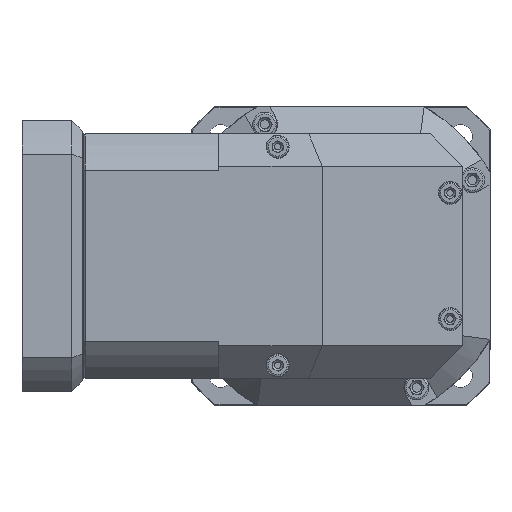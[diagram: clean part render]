
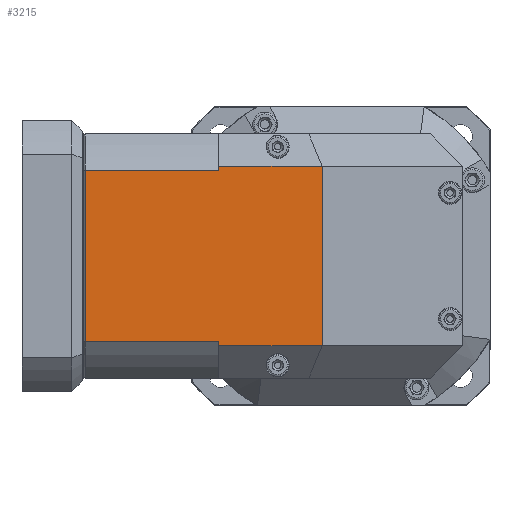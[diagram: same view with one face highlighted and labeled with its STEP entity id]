
A CAD part, front view. The second image highlights one B-rep face of the part: STEP entity #3215.
In plain terms, the highlighted planar face has unit normal (0, -1, 0).
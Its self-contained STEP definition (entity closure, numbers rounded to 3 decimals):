
#3144=CARTESIAN_POINT('',(-159.607,-135.65,-90.0));
#3145=DIRECTION('',(0.0,-1.0,0.0));
#3146=DIRECTION('',(0.0,0.0,-1.0));
#3147=AXIS2_PLACEMENT_3D('',#3144,#3145,#3146);
#3148=PLANE('',#3147);
#3149=CARTESIAN_POINT('',(-60.107,-135.65,63.246));
#3150=VERTEX_POINT('',#3149);
#3151=CARTESIAN_POINT('',(-158.607,-135.65,63.246));
#3152=VERTEX_POINT('',#3151);
#3153=CARTESIAN_POINT('',(-60.107,-135.65,63.246));
#3154=DIRECTION('',(-1.0,0.0,0.0));
#3155=VECTOR('',#3154,98.5);
#3156=LINE('',#3153,#3155);
#3157=EDGE_CURVE('',#3150,#3152,#3156,.T.);
#3158=ORIENTED_EDGE('',*,*,#3157,.T.);
#3159=CARTESIAN_POINT('',(-158.607,-135.65,-63.246));
#3160=VERTEX_POINT('',#3159);
#3161=CARTESIAN_POINT('',(-158.607,-135.65,63.246));
#3162=DIRECTION('',(0.0,0.0,-1.0));
#3163=VECTOR('',#3162,126.491);
#3164=LINE('',#3161,#3163);
#3165=EDGE_CURVE('',#3152,#3160,#3164,.T.);
#3166=ORIENTED_EDGE('',*,*,#3165,.T.);
#3167=CARTESIAN_POINT('',(-60.107,-135.65,-63.246));
#3168=VERTEX_POINT('',#3167);
#3169=CARTESIAN_POINT('',(-158.607,-135.65,-63.246));
#3170=DIRECTION('',(1.0,0.0,0.0));
#3171=VECTOR('',#3170,98.5);
#3172=LINE('',#3169,#3171);
#3173=EDGE_CURVE('',#3160,#3168,#3172,.T.);
#3174=ORIENTED_EDGE('',*,*,#3173,.T.);
#3175=CARTESIAN_POINT('',(-60.107,-135.65,-66.));
#3176=VERTEX_POINT('',#3175);
#3177=CARTESIAN_POINT('',(-60.107,-135.65,-66.));
#3178=DIRECTION('',(0.0,0.0,1.0));
#3179=VECTOR('',#3178,2.754);
#3180=LINE('',#3177,#3179);
#3181=EDGE_CURVE('',#3176,#3168,#3180,.T.);
#3182=ORIENTED_EDGE('',*,*,#3181,.F.);
#3183=CARTESIAN_POINT('',(16.26,-135.65,-66.));
#3184=VERTEX_POINT('',#3183);
#3185=CARTESIAN_POINT('',(-60.107,-135.65,-66.));
#3186=DIRECTION('',(1.0,0.0,0.0));
#3187=VECTOR('',#3186,76.368);
#3188=LINE('',#3185,#3187);
#3189=EDGE_CURVE('',#3176,#3184,#3188,.T.);
#3190=ORIENTED_EDGE('',*,*,#3189,.T.);
#3191=CARTESIAN_POINT('',(16.26,-135.65,66.));
#3192=VERTEX_POINT('',#3191);
#3193=CARTESIAN_POINT('',(16.26,-135.65,66.));
#3194=DIRECTION('',(0.0,0.0,-1.0));
#3195=VECTOR('',#3194,132.0);
#3196=LINE('',#3193,#3195);
#3197=EDGE_CURVE('',#3192,#3184,#3196,.T.);
#3198=ORIENTED_EDGE('',*,*,#3197,.F.);
#3199=CARTESIAN_POINT('',(-60.107,-135.65,66.));
#3200=VERTEX_POINT('',#3199);
#3201=CARTESIAN_POINT('',(16.26,-135.65,66.));
#3202=DIRECTION('',(-1.0,0.0,0.0));
#3203=VECTOR('',#3202,76.368);
#3204=LINE('',#3201,#3203);
#3205=EDGE_CURVE('',#3192,#3200,#3204,.T.);
#3206=ORIENTED_EDGE('',*,*,#3205,.T.);
#3207=CARTESIAN_POINT('',(-60.107,-135.65,63.246));
#3208=DIRECTION('',(0.0,0.0,1.0));
#3209=VECTOR('',#3208,2.754);
#3210=LINE('',#3207,#3209);
#3211=EDGE_CURVE('',#3150,#3200,#3210,.T.);
#3212=ORIENTED_EDGE('',*,*,#3211,.F.);
#3213=EDGE_LOOP('',(#3158,#3166,#3174,#3182,#3190,#3198,#3206,#3212));
#3214=FACE_OUTER_BOUND('',#3213,.T.);
#3215=ADVANCED_FACE('',(#3214),#3148,.T.);
